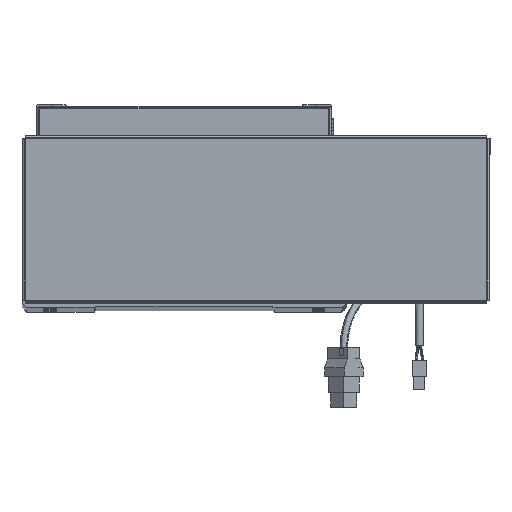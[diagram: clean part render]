
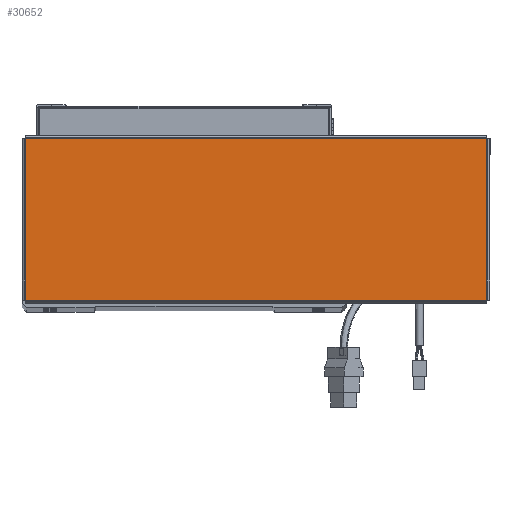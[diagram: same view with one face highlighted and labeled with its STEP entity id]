
A CAD part, top view. The second image highlights one B-rep face of the part: STEP entity #30652.
In plain terms, the highlighted planar face has unit normal (0, 0, 1).
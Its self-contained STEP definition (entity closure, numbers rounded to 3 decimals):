
#1898 = DIRECTION ( 'NONE',  ( -1., 0., 0. ) ) ;
#6063 = CARTESIAN_POINT ( 'NONE',  ( -156.543, -54.763, 0. ) ) ;
#9552 = VERTEX_POINT ( 'NONE', #32111 ) ;
#9684 = DIRECTION ( 'NONE',  ( 0., 0., 1. ) ) ;
#12170 = DIRECTION ( 'NONE',  ( 0., -1., 0. ) ) ;
#15880 = VECTOR ( 'NONE', #12170, 1000. ) ;
#21862 = DIRECTION ( 'NONE',  ( 1., 0., 0. ) ) ;
#25224 = PLANE ( 'NONE',  #35824 ) ;
#26203 = CARTESIAN_POINT ( 'NONE',  ( -156.513, 54.763, 0. ) ) ;
#29930 = LINE ( 'NONE', #54718, #15880 ) ;
#30652 = ADVANCED_FACE ( 'NONE', ( #53255 ), #25224, .T. ) ;
#30952 = ORIENTED_EDGE ( 'NONE', *, *, #59893, .T. ) ;
#32111 = CARTESIAN_POINT ( 'NONE',  ( -156.513, -54.763, 0. ) ) ;
#32997 = EDGE_CURVE ( 'NONE', #9552, #55057, #59097, .T. ) ;
#34853 = LINE ( 'NONE', #44016, #42379 ) ;
#35824 = AXIS2_PLACEMENT_3D ( 'NONE', #36832, #9684, #52255 ) ;
#36028 = CARTESIAN_POINT ( 'NONE',  ( 156.513, -54.793, 0. ) ) ;
#36832 = CARTESIAN_POINT ( 'NONE',  ( 0., 0., 0. ) ) ;
#36867 = EDGE_CURVE ( 'NONE', #55057, #64356, #54302, .T. ) ;
#40256 = CARTESIAN_POINT ( 'NONE',  ( 156.513, 54.763, 0. ) ) ;
#40500 = VERTEX_POINT ( 'NONE', #26203 ) ;
#42212 = EDGE_LOOP ( 'NONE', ( #48300, #64523, #30952, #42304 ) ) ;
#42304 = ORIENTED_EDGE ( 'NONE', *, *, #65808, .T. ) ;
#42379 = VECTOR ( 'NONE', #1898, 1000. ) ;
#44016 = CARTESIAN_POINT ( 'NONE',  ( 156.543, 54.763, 0. ) ) ;
#46817 = DIRECTION ( 'NONE',  ( 0., 1., 0. ) ) ;
#48300 = ORIENTED_EDGE ( 'NONE', *, *, #32997, .T. ) ;
#52255 = DIRECTION ( 'NONE',  ( 1., 0., 0. ) ) ;
#53022 = CARTESIAN_POINT ( 'NONE',  ( 156.513, -54.763, 0. ) ) ;
#53255 = FACE_OUTER_BOUND ( 'NONE', #42212, .T. ) ;
#54302 = LINE ( 'NONE', #36028, #57613 ) ;
#54718 = CARTESIAN_POINT ( 'NONE',  ( -156.513, 54.793, 0. ) ) ;
#55057 = VERTEX_POINT ( 'NONE', #53022 ) ;
#57613 = VECTOR ( 'NONE', #46817, 1000. ) ;
#59097 = LINE ( 'NONE', #6063, #63185 ) ;
#59893 = EDGE_CURVE ( 'NONE', #64356, #40500, #34853, .T. ) ;
#63185 = VECTOR ( 'NONE', #21862, 1000. ) ;
#64356 = VERTEX_POINT ( 'NONE', #40256 ) ;
#64523 = ORIENTED_EDGE ( 'NONE', *, *, #36867, .T. ) ;
#65808 = EDGE_CURVE ( 'NONE', #40500, #9552, #29930, .T. ) ;
